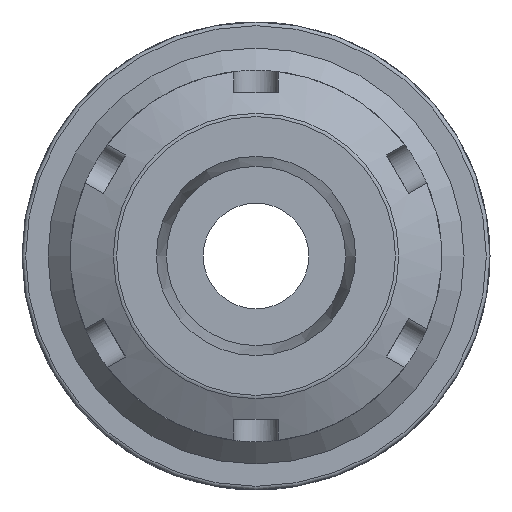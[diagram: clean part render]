
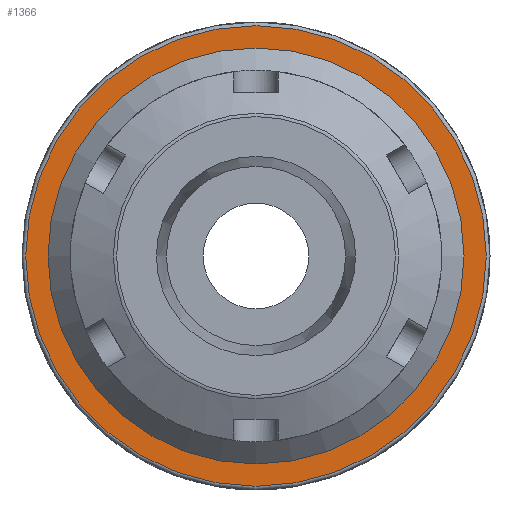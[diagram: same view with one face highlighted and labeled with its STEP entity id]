
A CAD part, front view. The second image highlights one B-rep face of the part: STEP entity #1366.
In plain terms, the highlighted planar face has unit normal (0, -1, 0).
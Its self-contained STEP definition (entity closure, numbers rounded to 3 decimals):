
#134=FACE_BOUND('',#269,.T.);
#147=PLANE('',#1529);
#187=FACE_OUTER_BOUND('',#268,.T.);
#268=EDGE_LOOP('',(#953));
#269=EDGE_LOOP('',(#954));
#515=CIRCLE('',#1526,28.);
#518=CIRCLE('',#1530,31.);
#594=VERTEX_POINT('',#2102);
#597=VERTEX_POINT('',#2110);
#736=EDGE_CURVE('',#594,#594,#515,.T.);
#740=EDGE_CURVE('',#597,#597,#518,.T.);
#953=ORIENTED_EDGE('',*,*,#740,.F.);
#954=ORIENTED_EDGE('',*,*,#736,.F.);
#1366=ADVANCED_FACE('',(#187,#134),#147,.T.);
#1526=AXIS2_PLACEMENT_3D('',#2103,#1703,#1704);
#1529=AXIS2_PLACEMENT_3D('',#2109,#1710,#1711);
#1530=AXIS2_PLACEMENT_3D('',#2111,#1712,#1713);
#1703=DIRECTION('center_axis',(0.,-1.,0.));
#1704=DIRECTION('ref_axis',(-1.,0.,0.));
#1710=DIRECTION('center_axis',(0.,-1.,0.));
#1711=DIRECTION('ref_axis',(0.,0.,-1.));
#1712=DIRECTION('center_axis',(0.,1.,0.));
#1713=DIRECTION('ref_axis',(-1.,0.,0.));
#2102=CARTESIAN_POINT('',(28.,120.8,0.));
#2103=CARTESIAN_POINT('Origin',(0.,120.8,0.));
#2109=CARTESIAN_POINT('Origin',(31.5,120.8,0.));
#2110=CARTESIAN_POINT('',(0.,120.8,-31.));
#2111=CARTESIAN_POINT('Origin',(0.,120.8,0.));
